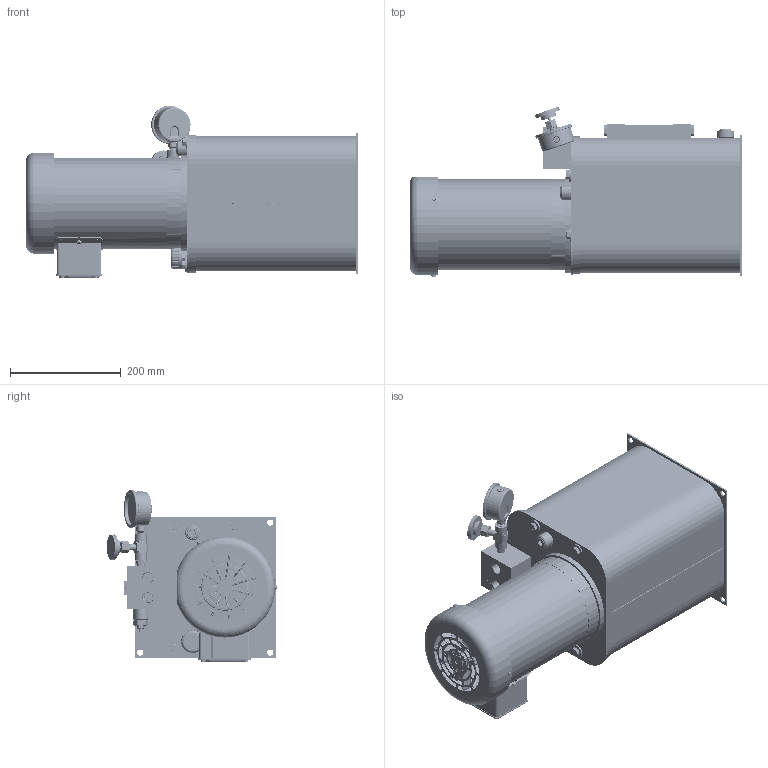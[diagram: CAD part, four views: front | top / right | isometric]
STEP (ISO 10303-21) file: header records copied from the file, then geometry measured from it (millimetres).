
FILE_DESCRIPTION (( 'STEP AP214' ), '1' );
FILE_NAME ('T3V-X-10-X-NN--059.STEP', '2021-08-25T15:35:13', ( '' ), ( '' ), 'SwSTEP 2.0', 'SolidWorks 2020', '' );
FILE_SCHEMA (( 'AUTOMOTIVE_DESIGN' ));
Length unit declared in the file: inch
Products named in the file (1): T3V-X-10-X-NN--059
Bounding box: 600.01 x 307.81 x 311.84 mm (x, y, z)
Surface area: 1770840.4 mm2 (no closed solid volume)
Topology: 0 solids, 87 shells, 7714 faces, 19511 edges, 12016 vertices
Faces by surface type: plane 2410, cylinder 2242, bspline 1326, cone 794, torus 648, sphere 294
Entity records: 447055 total; most frequent: CARTESIAN_POINT 178846, ORIENTED_EDGE 38536, DIRECTION 29483, EDGE_CURVE 19287, VERTEX_POINT 11999, AXIS2_PLACEMENT_3D 11324, EDGE_LOOP 8244, UNCERTAINTY_MEASURE_WITH_UNIT 7787
